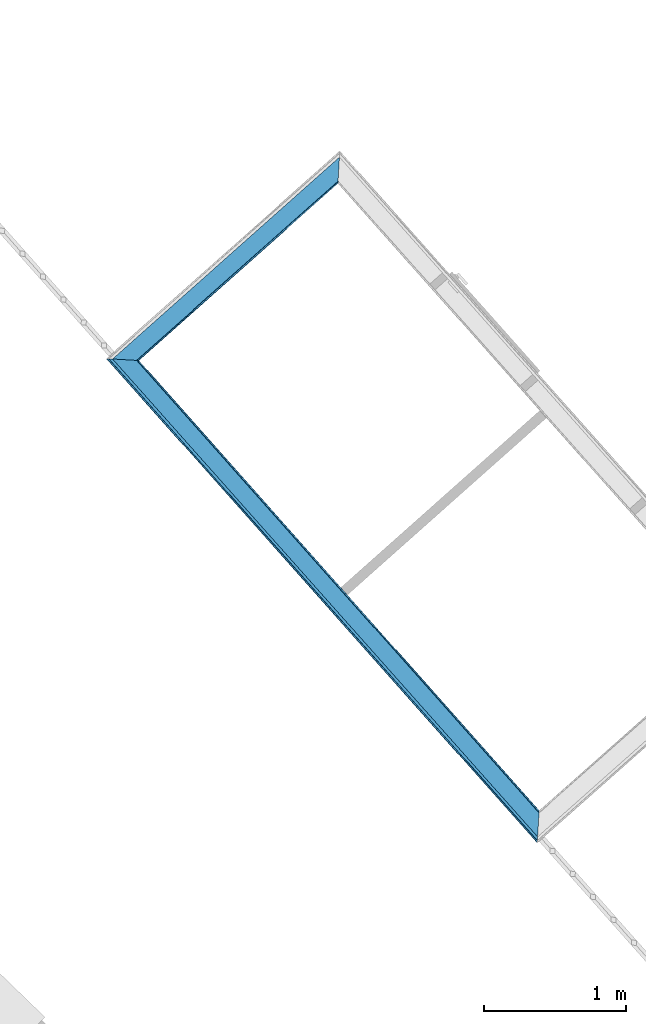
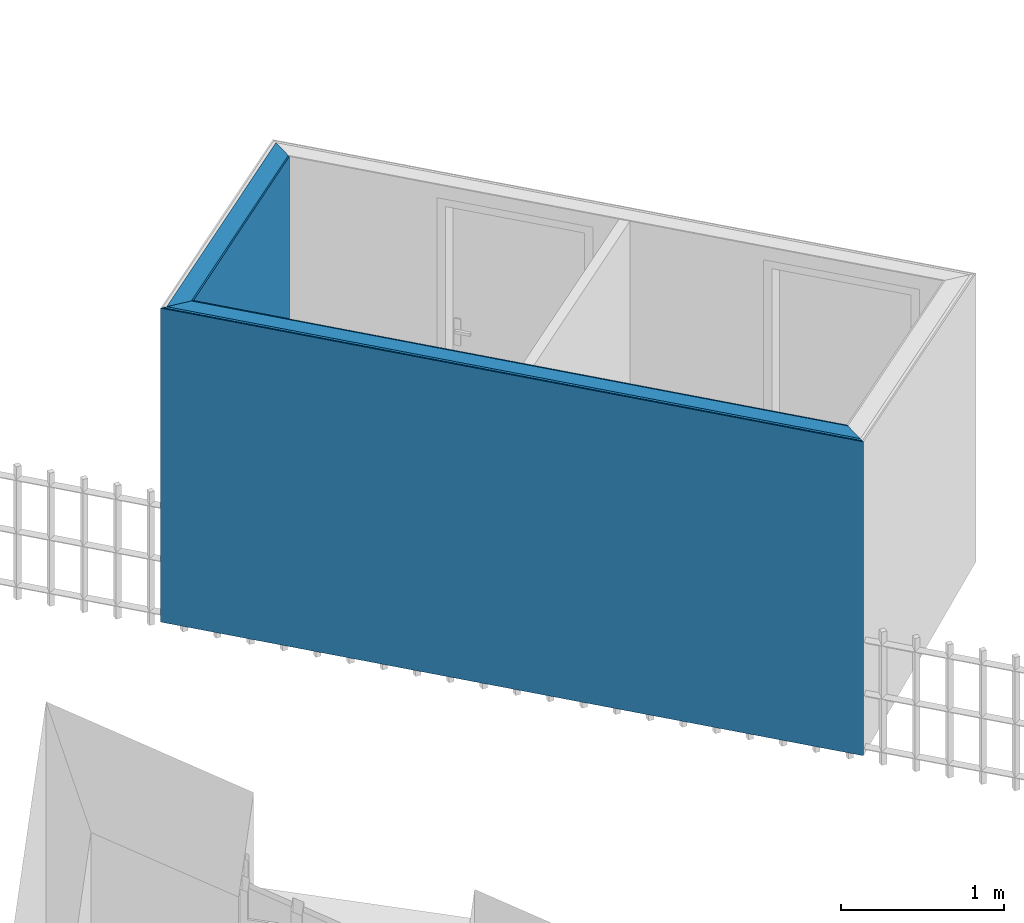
# One storey, part 121 of 195: 6 building element parts, 2 elements without a shape of their own.
"""IFC2X3 building model written with IfcOpenShell, lengths in metres."""

from ifc_helpers import new_model, entity, si_unit, converted_unit, derived_unit, money_unit, direction, frame, origin_with_axes, place, context, subcontext, project, spatial, polyline, outline, extrude, boolean, faceted_brep, material, type_object, element, aggregate, save


model = new_model("IFC2X3")

# Units and contexts
model_context = context("Model", 3, precision=1e-05, world=origin_with_axes(), true_north=direction((0.0, 1.0)))
body_context = subcontext(model_context, "Body", "Model", "MODEL_VIEW")
ifc_project = project(units=[si_unit("LENGTHUNIT", "METRE"), si_unit("AREAUNIT", "SQUARE_METRE"), si_unit("VOLUMEUNIT", "CUBIC_METRE"), converted_unit("PLANEANGLEUNIT", "DEGREE", entity("IfcPlaneAngleMeasure", 0.0174532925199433), si_unit("PLANEANGLEUNIT", "RADIAN"), dimensions=[0, 0, 0, 0, 0, 0, 0]), money_unit("CHF"), converted_unit("TIMEUNIT", "Year", entity("IfcTimeMeasure", 31557600.0), si_unit("TIMEUNIT", "SECOND"), dimensions=[0, 0, 1, 0, 0, 0, 0]), si_unit("MASSUNIT", "GRAM", prefix="KILO"), si_unit("THERMODYNAMICTEMPERATUREUNIT", "DEGREE_CELSIUS"), si_unit("LUMINOUSINTENSITYUNIT", "LUMEN"), si_unit("ENERGYUNIT", "JOULE", prefix="MEGA"), derived_unit("THERMALCONDUCTANCEUNIT", [(si_unit("POWERUNIT", "WATT"), 1), (si_unit("LENGTHUNIT", "METRE"), -1), (si_unit("THERMODYNAMICTEMPERATUREUNIT", "KELVIN"), -1)]), derived_unit("SPECIFICHEATCAPACITYUNIT", [(si_unit("ENERGYUNIT", "JOULE"), 1), (si_unit("MASSUNIT", "GRAM", prefix="KILO"), -1), (si_unit("THERMODYNAMICTEMPERATUREUNIT", "KELVIN"), -1)]), derived_unit("MASSDENSITYUNIT", [(si_unit("MASSUNIT", "GRAM", prefix="KILO"), 1), (si_unit("VOLUMEUNIT", "CUBIC_METRE"), -1)])], contexts=[model_context])

# Site, building, storey
site_placement = place(None, origin_with_axes())
site = spatial("IfcSite", under=ifc_project, at=site_placement, Name="Site", CompositionType="ELEMENT")
building_placement = place(site_placement, origin_with_axes())
building = spatial("IfcBuilding", under=site, at=building_placement, Name="Bâtiment", CompositionType="ELEMENT")
storey_placement = place(building_placement, origin_with_axes())
storey = spatial("IfcBuildingStorey", under=building, at=storey_placement, Name="rdc", CompositionType="ELEMENT", Elevation=0.0)

# Wall, building element parts
wall_type = type_object("IfcWallType", Name="1/Ossatur bois 160   non isol 160", PredefinedType="NOTDEFINED")
wall_1_placement = place(storey_placement, frame((9534.394085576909, -1058.80375944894, 57.7), z_axis=(0.0, 0.0, 1.0), x_axis=(0.7471567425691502, 0.6646478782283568, 0.0)))
wall_1 = element("IfcWall", 1, at=wall_1_placement, inside=storey, type_object=wall_type, Name="Mur-109")
ifc_material_1 = material(Name="Sans Trame 296962763")
building_element_part_1_placement = place(wall_1_placement, origin_with_axes())
building_element_part_1 = element("IfcBuildingElementPart", 2, at=building_element_part_1_placement, material=ifc_material_1, Name="Sans Trame 296962763", context=body_context, shape_type="CSG", body=[
    boolean("DIFFERENCE", boolean("DIFFERENCE", boolean("DIFFERENCE", boolean("DIFFERENCE", extrude(outline(polyline([(0.0, -0.1600000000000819), (2.193108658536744, -0.1599999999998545), (2.193108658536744, -0.1499999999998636), (0.0, -0.1499999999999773), (0.0, -0.1600000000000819)])), origin_with_axes(), (0.0, 0.0, 1.0), 2.75), faceted_brep([(0.1499999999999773, -0.1500000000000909, 2.343319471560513), (0.1499999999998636, -0.1499999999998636, 0.0), (0.0, -0.1499999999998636, 0.0), (0.0, -0.1499999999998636, 2.75), (2.193108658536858, -0.1499999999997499, 2.75), (2.193108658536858, -0.1499999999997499, 0.0), (2.043108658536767, -0.1499999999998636, 0.0), (2.043108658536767, -0.1499999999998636, 2.177693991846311), (0.1599999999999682, -0.1600000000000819, 2.342443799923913), (0.1599999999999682, -0.1600000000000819, 0.0), (0.0, -0.1599999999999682, 0.0), (0.0, -0.1599999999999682, 2.75), (2.193108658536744, -0.1599999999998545, 2.75), (2.193108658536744, -0.1599999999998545, 0.0), (2.033108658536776, -0.1599999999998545, 0.0), (2.033108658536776, -0.1599999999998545, 2.178568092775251)], [[[0, 1, 2, 3, 4, 5, 6, 7]], [[8, 9, 1, 0]], [[1, 9, 10, 2]], [[3, 2, 10, 11]], [[3, 11, 12, 4]], [[12, 13, 5, 4]], [[14, 6, 5, 13]], [[7, 6, 14, 15]], [[0, 7, 15, 8]], [[15, 14, 13, 12, 11, 10, 9, 8]]])), faceted_brep([(0.02999999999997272, -0.02999999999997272, 2.353827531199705), (0.02999999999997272, -0.02999999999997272, 0.0), (0.0, -0.02999999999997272, 0.0), (0.0, -0.02999999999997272, 2.75), (2.19310865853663, -0.02999999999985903, 2.75), (2.19310865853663, -0.02999999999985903, 0.0), (2.163108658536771, -0.02999999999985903, 0.0), (2.163108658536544, -0.02999999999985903, 2.167204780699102), (0.1499999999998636, -0.1499999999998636, 2.343319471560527), (0.1499999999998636, -0.1499999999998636, 0.0), (0.0, -0.1499999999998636, 0.0), (0.0, -0.1499999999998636, 2.75), (2.193108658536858, -0.1499999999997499, 2.75), (2.193108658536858, -0.1499999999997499, 0.0), (2.043108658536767, -0.1499999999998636, 0.0), (2.043108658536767, -0.1499999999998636, 2.177693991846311)], [[[0, 1, 2, 3, 4, 5, 6, 7]], [[8, 9, 1, 0]], [[1, 9, 10, 2]], [[3, 2, 10, 11]], [[3, 11, 12, 4]], [[12, 13, 5, 4]], [[14, 6, 5, 13]], [[7, 6, 14, 15]], [[0, 7, 15, 8]], [[15, 14, 13, 12, 11, 10, 9, 8]]])), faceted_brep([(0.009999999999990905, -0.009999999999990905, 2.355578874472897), (0.009999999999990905, -0.009999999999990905, 0.0), (0.0, -0.009999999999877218, 0.0), (0.0, -0.009999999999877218, 2.75), (2.19310865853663, -0.009999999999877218, 2.75), (2.19310865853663, -0.009999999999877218, 0.0), (2.183108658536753, -0.009999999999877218, 0.0), (2.183108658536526, -0.009999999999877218, 2.16545657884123), (0.02999999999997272, -0.02999999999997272, 2.353827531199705), (0.02999999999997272, -0.02999999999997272, 0.0), (0.0, -0.02999999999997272, 0.0), (0.0, -0.02999999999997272, 2.75), (2.19310865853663, -0.02999999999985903, 2.75), (2.19310865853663, -0.02999999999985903, 0.0), (2.163108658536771, -0.02999999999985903, 0.0), (2.163108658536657, -0.02999999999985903, 2.167204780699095)], [[[0, 1, 2, 3, 4, 5, 6, 7]], [[8, 9, 1, 0]], [[1, 9, 10, 2]], [[3, 2, 10, 11]], [[3, 11, 12, 4]], [[12, 13, 5, 4]], [[14, 6, 5, 13]], [[7, 6, 14, 15]], [[0, 7, 15, 8]], [[15, 14, 13, 12, 11, 10, 9, 8]]])), faceted_brep([(2.19310865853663, 0.0, 0.0), (2.19310865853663, 0.0, 2.164582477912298), (2.19310865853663, 0.0, 2.75), (2.19310865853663, -0.009999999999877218, 2.75), (2.19310865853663, -0.009999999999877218, 0.0), (2.183108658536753, -0.009999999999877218, 0.0), (2.183108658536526, -0.009999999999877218, 2.16545657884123), (0.0, 0.0, 2.356454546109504), (0.0, 0.0, 2.75), (0.0, -0.009999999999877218, 2.75), (0.0, -0.009999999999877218, 0.0), (0.009999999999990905, -0.009999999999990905, 0.0), (0.009999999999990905, -0.009999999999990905, 2.355578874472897), (0.0, 0.0, 0.0)], [[[0, 1, 2, 3, 4]], [[1, 0, 5, 6]], [[1, 7, 8, 2]], [[8, 9, 3, 2]], [[6, 5, 4, 3, 9, 10, 11, 12]], [[5, 0, 4]], [[7, 1, 6, 12]], [[7, 13, 10, 9, 8]], [[13, 11, 10]], [[12, 11, 13, 7]]])),
])
ifc_material_2 = material(Name="Lame d'air 275581439")
building_element_part_2_placement = place(wall_1_placement, origin_with_axes())
building_element_part_2 = element("IfcBuildingElementPart", 3, at=building_element_part_2_placement, material=ifc_material_2, Name="Lame d'air 275581439", context=body_context, shape_type="CSG", body=[
    boolean("DIFFERENCE", boolean("DIFFERENCE", boolean("DIFFERENCE", boolean("DIFFERENCE", extrude(outline(polyline([(0.0, -0.1499999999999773), (2.193108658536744, -0.1499999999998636), (2.19310865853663, -0.02999999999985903), (0.0, -0.02999999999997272), (0.0, -0.1499999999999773)])), origin_with_axes(), (0.0, 0.0, 1.0), 2.75), faceted_brep([(0.1499999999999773, -0.1500000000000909, 2.343319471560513), (0.1499999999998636, -0.1499999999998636, 0.0), (0.0, -0.1499999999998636, 0.0), (0.0, -0.1499999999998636, 2.75), (2.193108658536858, -0.1499999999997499, 2.75), (2.193108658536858, -0.1499999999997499, 0.0), (2.043108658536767, -0.1499999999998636, 0.0), (2.043108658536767, -0.1499999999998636, 2.177693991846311), (0.1599999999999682, -0.1600000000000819, 2.342443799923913), (0.1599999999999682, -0.1600000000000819, 0.0), (0.0, -0.1599999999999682, 0.0), (0.0, -0.1599999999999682, 2.75), (2.193108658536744, -0.1599999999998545, 2.75), (2.193108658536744, -0.1599999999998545, 0.0), (2.033108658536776, -0.1599999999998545, 0.0), (2.033108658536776, -0.1599999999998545, 2.178568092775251)], [[[0, 1, 2, 3, 4, 5, 6, 7]], [[8, 9, 1, 0]], [[1, 9, 10, 2]], [[3, 2, 10, 11]], [[3, 11, 12, 4]], [[12, 13, 5, 4]], [[14, 6, 5, 13]], [[7, 6, 14, 15]], [[0, 7, 15, 8]], [[15, 14, 13, 12, 11, 10, 9, 8]]])), faceted_brep([(0.02999999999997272, -0.02999999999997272, 2.353827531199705), (0.02999999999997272, -0.02999999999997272, 0.0), (0.0, -0.02999999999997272, 0.0), (0.0, -0.02999999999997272, 2.75), (2.19310865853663, -0.02999999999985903, 2.75), (2.19310865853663, -0.02999999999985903, 0.0), (2.163108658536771, -0.02999999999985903, 0.0), (2.163108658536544, -0.02999999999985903, 2.167204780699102), (0.1499999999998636, -0.1499999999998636, 2.343319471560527), (0.1499999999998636, -0.1499999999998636, 0.0), (0.0, -0.1499999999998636, 0.0), (0.0, -0.1499999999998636, 2.75), (2.193108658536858, -0.1499999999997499, 2.75), (2.193108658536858, -0.1499999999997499, 0.0), (2.043108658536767, -0.1499999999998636, 0.0), (2.043108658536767, -0.1499999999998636, 2.177693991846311)], [[[0, 1, 2, 3, 4, 5, 6, 7]], [[8, 9, 1, 0]], [[1, 9, 10, 2]], [[3, 2, 10, 11]], [[3, 11, 12, 4]], [[12, 13, 5, 4]], [[14, 6, 5, 13]], [[7, 6, 14, 15]], [[0, 7, 15, 8]], [[15, 14, 13, 12, 11, 10, 9, 8]]])), faceted_brep([(0.009999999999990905, -0.009999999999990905, 2.355578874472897), (0.009999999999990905, -0.009999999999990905, 0.0), (0.0, -0.009999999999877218, 0.0), (0.0, -0.009999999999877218, 2.75), (2.19310865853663, -0.009999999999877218, 2.75), (2.19310865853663, -0.009999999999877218, 0.0), (2.183108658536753, -0.009999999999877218, 0.0), (2.183108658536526, -0.009999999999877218, 2.16545657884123), (0.02999999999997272, -0.02999999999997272, 2.353827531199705), (0.02999999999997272, -0.02999999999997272, 0.0), (0.0, -0.02999999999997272, 0.0), (0.0, -0.02999999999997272, 2.75), (2.19310865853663, -0.02999999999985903, 2.75), (2.19310865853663, -0.02999999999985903, 0.0), (2.163108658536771, -0.02999999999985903, 0.0), (2.163108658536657, -0.02999999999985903, 2.167204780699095)], [[[0, 1, 2, 3, 4, 5, 6, 7]], [[8, 9, 1, 0]], [[1, 9, 10, 2]], [[3, 2, 10, 11]], [[3, 11, 12, 4]], [[12, 13, 5, 4]], [[14, 6, 5, 13]], [[7, 6, 14, 15]], [[0, 7, 15, 8]], [[15, 14, 13, 12, 11, 10, 9, 8]]])), faceted_brep([(2.19310865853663, 0.0, 0.0), (2.19310865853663, 0.0, 2.164582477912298), (2.19310865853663, 0.0, 2.75), (2.19310865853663, -0.009999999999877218, 2.75), (2.19310865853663, -0.009999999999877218, 0.0), (2.183108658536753, -0.009999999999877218, 0.0), (2.183108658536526, -0.009999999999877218, 2.16545657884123), (0.0, 0.0, 2.356454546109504), (0.0, 0.0, 2.75), (0.0, -0.009999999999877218, 2.75), (0.0, -0.009999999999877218, 0.0), (0.009999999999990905, -0.009999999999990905, 0.0), (0.009999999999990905, -0.009999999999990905, 2.355578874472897), (0.0, 0.0, 0.0)], [[[0, 1, 2, 3, 4]], [[1, 0, 5, 6]], [[1, 7, 8, 2]], [[8, 9, 3, 2]], [[6, 5, 4, 3, 9, 10, 11, 12]], [[5, 0, 4]], [[7, 1, 6, 12]], [[7, 13, 10, 9, 8]], [[13, 11, 10]], [[12, 11, 13, 7]]])),
])
aggregate(wall_1, [building_element_part_1, building_element_part_2])

wall_2_placement = place(storey_placement, frame((9537.419628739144, -1062.204891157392, 57.7), z_axis=(0.0, 0.0, 1.0), x_axis=(-0.6646478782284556, 0.7471567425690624, 0.0)))
wall_2 = element("IfcWall", 4, at=wall_2_placement, inside=storey, type_object=wall_type, Name="Mur-108")
building_element_part_3_placement = place(wall_2_placement, origin_with_axes())
building_element_part_3 = element("IfcBuildingElementPart", 5, at=building_element_part_3_placement, material=ifc_material_1, Name="Sans Trame 296962763", context=body_context, shape_type="CSG", body=[
    boolean("DIFFERENCE", boolean("DIFFERENCE", boolean("DIFFERENCE", boolean("DIFFERENCE", extrude(outline(polyline([(-0.0001436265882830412, -0.1600000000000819), (4.552099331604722, -0.1599999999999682), (4.552099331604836, -0.1499999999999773), (-0.0001436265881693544, -0.1499999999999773), (-0.0001436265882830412, -0.1600000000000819)])), origin_with_axes(), (0.0, 0.0, 1.0), 2.75), faceted_brep([(4.392099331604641, -0.1599999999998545, 2.342443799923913), (4.392099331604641, -0.1599999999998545, 0.0), (4.552099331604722, -0.1599999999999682, 0.0), (4.552099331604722, -0.1599999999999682, 2.75), (-0.0001436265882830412, -0.1600000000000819, 2.75), (-0.0001436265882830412, -0.1600000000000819, 0.0), (0.1598564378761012, -0.1599999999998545, 0.0), (0.1598564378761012, -0.1599999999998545, 2.34211141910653), (4.402099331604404, -0.1499999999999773, 2.343319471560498), (4.402099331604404, -0.1499999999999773, 0.0), (4.552099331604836, -0.1499999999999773, 0.0), (4.552099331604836, -0.1499999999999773, 2.75), (-0.0001436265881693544, -0.1499999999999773, 2.75), (-0.0001436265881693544, -0.1499999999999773, 0.0), (0.1498654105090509, -0.1499999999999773, 0.0), (0.1498654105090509, -0.1500000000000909, 2.342985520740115)], [[[0, 1, 2, 3, 4, 5, 6, 7]], [[1, 0, 8, 9]], [[1, 9, 10, 2]], [[3, 2, 10, 11]], [[12, 4, 3, 11]], [[12, 13, 5, 4]], [[14, 6, 5, 13]], [[7, 6, 14, 15]], [[0, 7, 15, 8]], [[15, 14, 13, 12, 11, 10, 9, 8]]])), faceted_brep([(4.402099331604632, -0.1499999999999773, 2.343319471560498), (4.402099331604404, -0.1499999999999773, 0.0), (4.552099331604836, -0.1499999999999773, 0.0), (4.552099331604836, -0.1499999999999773, 2.75), (-0.0001436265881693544, -0.1499999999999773, 2.75), (-0.0001436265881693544, -0.1499999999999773, 0.0), (0.1498654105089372, -0.1499999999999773, 0.0), (0.1498654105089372, -0.1499999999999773, 2.342985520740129), (4.522099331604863, -0.02999999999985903, 2.353827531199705), (4.522099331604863, -0.02999999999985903, 0.0), (4.552099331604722, -0.02999999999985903, 0.0), (4.552099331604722, -0.02999999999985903, 2.75), (-0.0001436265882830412, -0.02999999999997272, 2.75), (-0.0001436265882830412, -0.02999999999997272, 0.0), (0.02997308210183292, -0.02999999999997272, 0.0), (0.02997308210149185, -0.02999999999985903, 2.353474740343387)], [[[0, 1, 2, 3, 4, 5, 6, 7]], [[1, 0, 8, 9]], [[1, 9, 10, 2]], [[3, 2, 10, 11]], [[12, 4, 3, 11]], [[12, 13, 5, 4]], [[14, 6, 5, 13]], [[7, 6, 14, 15]], [[0, 7, 15, 8]], [[15, 14, 13, 12, 11, 10, 9, 8]]])), faceted_brep([(4.522099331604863, -0.02999999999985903, 2.353827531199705), (4.522099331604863, -0.02999999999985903, 0.0), (4.552099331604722, -0.02999999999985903, 0.0), (4.552099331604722, -0.02999999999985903, 2.75), (-0.0001436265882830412, -0.02999999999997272, 2.75), (-0.0001436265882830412, -0.02999999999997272, 0.0), (0.02997308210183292, -0.02999999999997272, 0.0), (0.02997308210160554, -0.02999999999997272, 2.35347474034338), (4.542099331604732, -0.009999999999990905, 2.35557887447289), (4.542099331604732, -0.009999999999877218, 0.0), (4.552099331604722, -0.009999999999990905, 0.0), (4.552099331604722, -0.009999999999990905, 2.75), (-0.0001436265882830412, -0.009999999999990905, 2.75), (-0.0001436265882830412, -0.009999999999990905, 0.0), (0.009991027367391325, -0.009999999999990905, 0.0), (0.009991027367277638, -0.01000000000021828, 2.355222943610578)], [[[0, 1, 2, 3, 4, 5, 6, 7]], [[1, 0, 8, 9]], [[1, 9, 10, 2]], [[3, 2, 10, 11]], [[12, 4, 3, 11]], [[12, 13, 5, 4]], [[14, 6, 5, 13]], [[7, 6, 14, 15]], [[0, 7, 15, 8]], [[15, 14, 13, 12, 11, 10, 9, 8]]])), faceted_brep([(4.542099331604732, -0.009999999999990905, 2.35557887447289), (4.542099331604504, -0.009999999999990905, 0.0), (4.552099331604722, -0.009999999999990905, 0.0), (4.552099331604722, -0.009999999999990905, 2.75), (-0.0001436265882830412, -0.009999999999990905, 2.75), (-0.0001436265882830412, -0.009999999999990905, 0.0), (0.009991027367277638, -0.009999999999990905, 0.0), (0.009991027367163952, -0.01000000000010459, 2.355222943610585), (4.552099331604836, 0.0, 2.356454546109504), (4.552099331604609, 0.0, 0.0), (4.552099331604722, 0.0, 2.75), (-0.0001436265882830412, 0.0, 2.75), (-0.0001436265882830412, 0.0, 0.0), (0.0, 0.0, 0.0), (0.0, 0.0, 2.356097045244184)], [[[0, 1, 2, 3, 4, 5, 6, 7]], [[1, 0, 8, 9]], [[1, 9, 2]], [[9, 8, 10, 3, 2]], [[11, 4, 3, 10]], [[11, 12, 5, 4]], [[13, 6, 5, 12]], [[7, 6, 13, 14]], [[0, 7, 14, 8]], [[14, 13, 12, 11, 10, 8]]])),
])
ifc_material_3 = material(Name="Lame d'air 323202302")
building_element_part_4_placement = place(wall_2_placement, origin_with_axes())
building_element_part_4 = element("IfcBuildingElementPart", 6, at=building_element_part_4_placement, material=ifc_material_3, Name="Lame d'air 323202302", context=body_context, shape_type="CSG", body=[
    boolean("DIFFERENCE", boolean("DIFFERENCE", boolean("DIFFERENCE", boolean("DIFFERENCE", extrude(outline(polyline([(-0.0001436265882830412, -0.02999999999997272), (4.552099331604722, -0.02999999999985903), (4.552099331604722, -0.009999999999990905), (-0.0001436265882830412, -0.009999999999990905), (-0.0001436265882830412, -0.02999999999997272)])), origin_with_axes(), (0.0, 0.0, 1.0), 2.75), faceted_brep([(4.392099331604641, -0.1599999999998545, 2.342443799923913), (4.392099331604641, -0.1599999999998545, 0.0), (4.552099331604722, -0.1599999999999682, 0.0), (4.552099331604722, -0.1599999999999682, 2.75), (-0.0001436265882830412, -0.1600000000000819, 2.75), (-0.0001436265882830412, -0.1600000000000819, 0.0), (0.1598564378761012, -0.1599999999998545, 0.0), (0.1598564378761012, -0.1599999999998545, 2.34211141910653), (4.402099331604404, -0.1499999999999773, 2.343319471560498), (4.402099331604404, -0.1499999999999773, 0.0), (4.552099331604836, -0.1499999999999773, 0.0), (4.552099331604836, -0.1499999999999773, 2.75), (-0.0001436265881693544, -0.1499999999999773, 2.75), (-0.0001436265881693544, -0.1499999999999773, 0.0), (0.1498654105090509, -0.1499999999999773, 0.0), (0.1498654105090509, -0.1500000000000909, 2.342985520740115)], [[[0, 1, 2, 3, 4, 5, 6, 7]], [[1, 0, 8, 9]], [[1, 9, 10, 2]], [[3, 2, 10, 11]], [[12, 4, 3, 11]], [[12, 13, 5, 4]], [[14, 6, 5, 13]], [[7, 6, 14, 15]], [[0, 7, 15, 8]], [[15, 14, 13, 12, 11, 10, 9, 8]]])), faceted_brep([(4.402099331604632, -0.1499999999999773, 2.343319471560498), (4.402099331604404, -0.1499999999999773, 0.0), (4.552099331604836, -0.1499999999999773, 0.0), (4.552099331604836, -0.1499999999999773, 2.75), (-0.0001436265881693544, -0.1499999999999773, 2.75), (-0.0001436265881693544, -0.1499999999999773, 0.0), (0.1498654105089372, -0.1499999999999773, 0.0), (0.1498654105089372, -0.1499999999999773, 2.342985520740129), (4.522099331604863, -0.02999999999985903, 2.353827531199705), (4.522099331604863, -0.02999999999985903, 0.0), (4.552099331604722, -0.02999999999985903, 0.0), (4.552099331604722, -0.02999999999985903, 2.75), (-0.0001436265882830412, -0.02999999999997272, 2.75), (-0.0001436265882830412, -0.02999999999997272, 0.0), (0.02997308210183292, -0.02999999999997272, 0.0), (0.02997308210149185, -0.02999999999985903, 2.353474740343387)], [[[0, 1, 2, 3, 4, 5, 6, 7]], [[1, 0, 8, 9]], [[1, 9, 10, 2]], [[3, 2, 10, 11]], [[12, 4, 3, 11]], [[12, 13, 5, 4]], [[14, 6, 5, 13]], [[7, 6, 14, 15]], [[0, 7, 15, 8]], [[15, 14, 13, 12, 11, 10, 9, 8]]])), faceted_brep([(4.522099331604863, -0.02999999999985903, 2.353827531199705), (4.522099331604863, -0.02999999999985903, 0.0), (4.552099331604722, -0.02999999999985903, 0.0), (4.552099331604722, -0.02999999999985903, 2.75), (-0.0001436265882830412, -0.02999999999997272, 2.75), (-0.0001436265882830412, -0.02999999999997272, 0.0), (0.02997308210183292, -0.02999999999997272, 0.0), (0.02997308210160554, -0.02999999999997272, 2.35347474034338), (4.542099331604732, -0.009999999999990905, 2.35557887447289), (4.542099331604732, -0.009999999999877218, 0.0), (4.552099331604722, -0.009999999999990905, 0.0), (4.552099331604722, -0.009999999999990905, 2.75), (-0.0001436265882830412, -0.009999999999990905, 2.75), (-0.0001436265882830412, -0.009999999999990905, 0.0), (0.009991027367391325, -0.009999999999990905, 0.0), (0.009991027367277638, -0.01000000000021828, 2.355222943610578)], [[[0, 1, 2, 3, 4, 5, 6, 7]], [[1, 0, 8, 9]], [[1, 9, 10, 2]], [[3, 2, 10, 11]], [[12, 4, 3, 11]], [[12, 13, 5, 4]], [[14, 6, 5, 13]], [[7, 6, 14, 15]], [[0, 7, 15, 8]], [[15, 14, 13, 12, 11, 10, 9, 8]]])), faceted_brep([(4.542099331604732, -0.009999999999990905, 2.35557887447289), (4.542099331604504, -0.009999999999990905, 0.0), (4.552099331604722, -0.009999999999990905, 0.0), (4.552099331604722, -0.009999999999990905, 2.75), (-0.0001436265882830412, -0.009999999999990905, 2.75), (-0.0001436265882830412, -0.009999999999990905, 0.0), (0.009991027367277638, -0.009999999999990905, 0.0), (0.009991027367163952, -0.01000000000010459, 2.355222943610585), (4.552099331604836, 0.0, 2.356454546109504), (4.552099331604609, 0.0, 0.0), (4.552099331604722, 0.0, 2.75), (-0.0001436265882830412, 0.0, 2.75), (-0.0001436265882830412, 0.0, 0.0), (0.0, 0.0, 0.0), (0.0, 0.0, 2.356097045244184)], [[[0, 1, 2, 3, 4, 5, 6, 7]], [[1, 0, 8, 9]], [[1, 9, 2]], [[9, 8, 10, 3, 2]], [[11, 4, 3, 10]], [[11, 12, 5, 4]], [[13, 6, 5, 12]], [[7, 6, 13, 14]], [[0, 7, 14, 8]], [[14, 13, 12, 11, 10, 8]]])),
])
ifc_material_4 = material(Name="Hachure solide 323202122")
building_element_part_5_placement = place(wall_2_placement, origin_with_axes())
building_element_part_5 = element("IfcBuildingElementPart", 7, at=building_element_part_5_placement, material=ifc_material_4, Name="Hachure solide 323202122", context=body_context, shape_type="CSG", body=[
    boolean("DIFFERENCE", boolean("DIFFERENCE", boolean("DIFFERENCE", boolean("DIFFERENCE", extrude(outline(polyline([(-0.0001436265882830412, -0.009999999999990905), (4.552099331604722, -0.009999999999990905), (4.552099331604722, 0.0), (-0.0001436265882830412, 0.0), (-0.0001436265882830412, -0.009999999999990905)])), origin_with_axes(), (0.0, 0.0, 1.0), 2.75), faceted_brep([(4.392099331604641, -0.1599999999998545, 2.342443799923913), (4.392099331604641, -0.1599999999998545, 0.0), (4.552099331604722, -0.1599999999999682, 0.0), (4.552099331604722, -0.1599999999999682, 2.75), (-0.0001436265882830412, -0.1600000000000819, 2.75), (-0.0001436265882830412, -0.1600000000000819, 0.0), (0.1598564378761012, -0.1599999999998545, 0.0), (0.1598564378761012, -0.1599999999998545, 2.34211141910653), (4.402099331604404, -0.1499999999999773, 2.343319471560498), (4.402099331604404, -0.1499999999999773, 0.0), (4.552099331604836, -0.1499999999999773, 0.0), (4.552099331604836, -0.1499999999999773, 2.75), (-0.0001436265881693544, -0.1499999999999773, 2.75), (-0.0001436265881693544, -0.1499999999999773, 0.0), (0.1498654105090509, -0.1499999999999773, 0.0), (0.1498654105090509, -0.1500000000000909, 2.342985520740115)], [[[0, 1, 2, 3, 4, 5, 6, 7]], [[1, 0, 8, 9]], [[1, 9, 10, 2]], [[3, 2, 10, 11]], [[12, 4, 3, 11]], [[12, 13, 5, 4]], [[14, 6, 5, 13]], [[7, 6, 14, 15]], [[0, 7, 15, 8]], [[15, 14, 13, 12, 11, 10, 9, 8]]])), faceted_brep([(4.402099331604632, -0.1499999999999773, 2.343319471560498), (4.402099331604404, -0.1499999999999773, 0.0), (4.552099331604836, -0.1499999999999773, 0.0), (4.552099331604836, -0.1499999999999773, 2.75), (-0.0001436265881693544, -0.1499999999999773, 2.75), (-0.0001436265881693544, -0.1499999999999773, 0.0), (0.1498654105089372, -0.1499999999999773, 0.0), (0.1498654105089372, -0.1499999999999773, 2.342985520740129), (4.522099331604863, -0.02999999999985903, 2.353827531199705), (4.522099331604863, -0.02999999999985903, 0.0), (4.552099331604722, -0.02999999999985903, 0.0), (4.552099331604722, -0.02999999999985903, 2.75), (-0.0001436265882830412, -0.02999999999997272, 2.75), (-0.0001436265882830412, -0.02999999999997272, 0.0), (0.02997308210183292, -0.02999999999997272, 0.0), (0.02997308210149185, -0.02999999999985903, 2.353474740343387)], [[[0, 1, 2, 3, 4, 5, 6, 7]], [[1, 0, 8, 9]], [[1, 9, 10, 2]], [[3, 2, 10, 11]], [[12, 4, 3, 11]], [[12, 13, 5, 4]], [[14, 6, 5, 13]], [[7, 6, 14, 15]], [[0, 7, 15, 8]], [[15, 14, 13, 12, 11, 10, 9, 8]]])), faceted_brep([(4.522099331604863, -0.02999999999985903, 2.353827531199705), (4.522099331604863, -0.02999999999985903, 0.0), (4.552099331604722, -0.02999999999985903, 0.0), (4.552099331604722, -0.02999999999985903, 2.75), (-0.0001436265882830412, -0.02999999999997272, 2.75), (-0.0001436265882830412, -0.02999999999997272, 0.0), (0.02997308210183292, -0.02999999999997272, 0.0), (0.02997308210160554, -0.02999999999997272, 2.35347474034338), (4.542099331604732, -0.009999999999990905, 2.35557887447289), (4.542099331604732, -0.009999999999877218, 0.0), (4.552099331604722, -0.009999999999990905, 0.0), (4.552099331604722, -0.009999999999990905, 2.75), (-0.0001436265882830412, -0.009999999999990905, 2.75), (-0.0001436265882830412, -0.009999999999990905, 0.0), (0.009991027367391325, -0.009999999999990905, 0.0), (0.009991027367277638, -0.01000000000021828, 2.355222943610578)], [[[0, 1, 2, 3, 4, 5, 6, 7]], [[1, 0, 8, 9]], [[1, 9, 10, 2]], [[3, 2, 10, 11]], [[12, 4, 3, 11]], [[12, 13, 5, 4]], [[14, 6, 5, 13]], [[7, 6, 14, 15]], [[0, 7, 15, 8]], [[15, 14, 13, 12, 11, 10, 9, 8]]])), faceted_brep([(4.542099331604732, -0.009999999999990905, 2.35557887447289), (4.542099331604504, -0.009999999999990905, 0.0), (4.552099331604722, -0.009999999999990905, 0.0), (4.552099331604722, -0.009999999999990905, 2.75), (-0.0001436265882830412, -0.009999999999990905, 2.75), (-0.0001436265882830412, -0.009999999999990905, 0.0), (0.009991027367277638, -0.009999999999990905, 0.0), (0.009991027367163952, -0.01000000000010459, 2.355222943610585), (4.552099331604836, 0.0, 2.356454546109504), (4.552099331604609, 0.0, 0.0), (4.552099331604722, 0.0, 2.75), (-0.0001436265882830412, 0.0, 2.75), (-0.0001436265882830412, 0.0, 0.0), (0.0, 0.0, 0.0), (0.0, 0.0, 2.356097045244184)], [[[0, 1, 2, 3, 4, 5, 6, 7]], [[1, 0, 8, 9]], [[1, 9, 2]], [[9, 8, 10, 3, 2]], [[11, 4, 3, 10]], [[11, 12, 5, 4]], [[13, 6, 5, 12]], [[7, 6, 13, 14]], [[0, 7, 14, 8]], [[14, 13, 12, 11, 10, 8]]])),
])
building_element_part_6_placement = place(wall_2_placement, origin_with_axes())
building_element_part_6 = element("IfcBuildingElementPart", 8, at=building_element_part_6_placement, material=ifc_material_2, Name="Lame d'air 275581439", context=body_context, shape_type="CSG", body=[
    boolean("DIFFERENCE", boolean("DIFFERENCE", boolean("DIFFERENCE", boolean("DIFFERENCE", extrude(outline(polyline([(-0.0001436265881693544, -0.1499999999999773), (4.552099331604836, -0.1499999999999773), (4.552099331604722, -0.02999999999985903), (-0.0001436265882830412, -0.02999999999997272), (-0.0001436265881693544, -0.1499999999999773)])), origin_with_axes(), (0.0, 0.0, 1.0), 2.75), faceted_brep([(4.392099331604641, -0.1599999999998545, 2.342443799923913), (4.392099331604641, -0.1599999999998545, 0.0), (4.552099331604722, -0.1599999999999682, 0.0), (4.552099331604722, -0.1599999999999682, 2.75), (-0.0001436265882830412, -0.1600000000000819, 2.75), (-0.0001436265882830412, -0.1600000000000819, 0.0), (0.1598564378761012, -0.1599999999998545, 0.0), (0.1598564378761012, -0.1599999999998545, 2.34211141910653), (4.402099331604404, -0.1499999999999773, 2.343319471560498), (4.402099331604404, -0.1499999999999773, 0.0), (4.552099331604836, -0.1499999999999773, 0.0), (4.552099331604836, -0.1499999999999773, 2.75), (-0.0001436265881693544, -0.1499999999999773, 2.75), (-0.0001436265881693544, -0.1499999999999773, 0.0), (0.1498654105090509, -0.1499999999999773, 0.0), (0.1498654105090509, -0.1500000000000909, 2.342985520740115)], [[[0, 1, 2, 3, 4, 5, 6, 7]], [[1, 0, 8, 9]], [[1, 9, 10, 2]], [[3, 2, 10, 11]], [[12, 4, 3, 11]], [[12, 13, 5, 4]], [[14, 6, 5, 13]], [[7, 6, 14, 15]], [[0, 7, 15, 8]], [[15, 14, 13, 12, 11, 10, 9, 8]]])), faceted_brep([(4.402099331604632, -0.1499999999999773, 2.343319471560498), (4.402099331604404, -0.1499999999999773, 0.0), (4.552099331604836, -0.1499999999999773, 0.0), (4.552099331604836, -0.1499999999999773, 2.75), (-0.0001436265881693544, -0.1499999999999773, 2.75), (-0.0001436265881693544, -0.1499999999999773, 0.0), (0.1498654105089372, -0.1499999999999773, 0.0), (0.1498654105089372, -0.1499999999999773, 2.342985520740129), (4.522099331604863, -0.02999999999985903, 2.353827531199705), (4.522099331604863, -0.02999999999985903, 0.0), (4.552099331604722, -0.02999999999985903, 0.0), (4.552099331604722, -0.02999999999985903, 2.75), (-0.0001436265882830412, -0.02999999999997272, 2.75), (-0.0001436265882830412, -0.02999999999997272, 0.0), (0.02997308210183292, -0.02999999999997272, 0.0), (0.02997308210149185, -0.02999999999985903, 2.353474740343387)], [[[0, 1, 2, 3, 4, 5, 6, 7]], [[1, 0, 8, 9]], [[1, 9, 10, 2]], [[3, 2, 10, 11]], [[12, 4, 3, 11]], [[12, 13, 5, 4]], [[14, 6, 5, 13]], [[7, 6, 14, 15]], [[0, 7, 15, 8]], [[15, 14, 13, 12, 11, 10, 9, 8]]])), faceted_brep([(4.522099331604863, -0.02999999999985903, 2.353827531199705), (4.522099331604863, -0.02999999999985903, 0.0), (4.552099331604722, -0.02999999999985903, 0.0), (4.552099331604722, -0.02999999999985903, 2.75), (-0.0001436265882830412, -0.02999999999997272, 2.75), (-0.0001436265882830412, -0.02999999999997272, 0.0), (0.02997308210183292, -0.02999999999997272, 0.0), (0.02997308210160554, -0.02999999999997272, 2.35347474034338), (4.542099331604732, -0.009999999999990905, 2.35557887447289), (4.542099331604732, -0.009999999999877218, 0.0), (4.552099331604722, -0.009999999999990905, 0.0), (4.552099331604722, -0.009999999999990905, 2.75), (-0.0001436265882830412, -0.009999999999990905, 2.75), (-0.0001436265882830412, -0.009999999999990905, 0.0), (0.009991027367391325, -0.009999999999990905, 0.0), (0.009991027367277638, -0.01000000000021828, 2.355222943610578)], [[[0, 1, 2, 3, 4, 5, 6, 7]], [[1, 0, 8, 9]], [[1, 9, 10, 2]], [[3, 2, 10, 11]], [[12, 4, 3, 11]], [[12, 13, 5, 4]], [[14, 6, 5, 13]], [[7, 6, 14, 15]], [[0, 7, 15, 8]], [[15, 14, 13, 12, 11, 10, 9, 8]]])), faceted_brep([(4.542099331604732, -0.009999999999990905, 2.35557887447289), (4.542099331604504, -0.009999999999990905, 0.0), (4.552099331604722, -0.009999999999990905, 0.0), (4.552099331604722, -0.009999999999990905, 2.75), (-0.0001436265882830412, -0.009999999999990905, 2.75), (-0.0001436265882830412, -0.009999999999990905, 0.0), (0.009991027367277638, -0.009999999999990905, 0.0), (0.009991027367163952, -0.01000000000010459, 2.355222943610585), (4.552099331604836, 0.0, 2.356454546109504), (4.552099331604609, 0.0, 0.0), (4.552099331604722, 0.0, 2.75), (-0.0001436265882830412, 0.0, 2.75), (-0.0001436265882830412, 0.0, 0.0), (0.0, 0.0, 0.0), (0.0, 0.0, 2.356097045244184)], [[[0, 1, 2, 3, 4, 5, 6, 7]], [[1, 0, 8, 9]], [[1, 9, 2]], [[9, 8, 10, 3, 2]], [[11, 4, 3, 10]], [[11, 12, 5, 4]], [[13, 6, 5, 12]], [[7, 6, 13, 14]], [[0, 7, 14, 8]], [[14, 13, 12, 11, 10, 8]]])),
])
aggregate(wall_2, [building_element_part_3, building_element_part_4, building_element_part_5, building_element_part_6])

save(model, "model.ifc")
